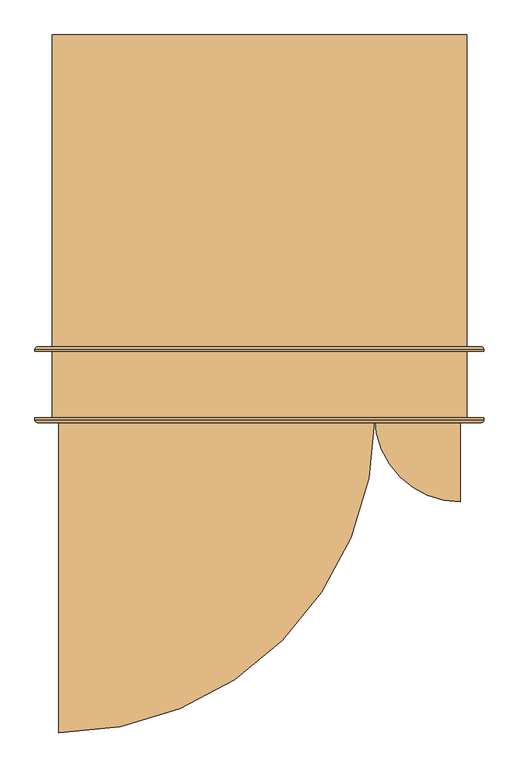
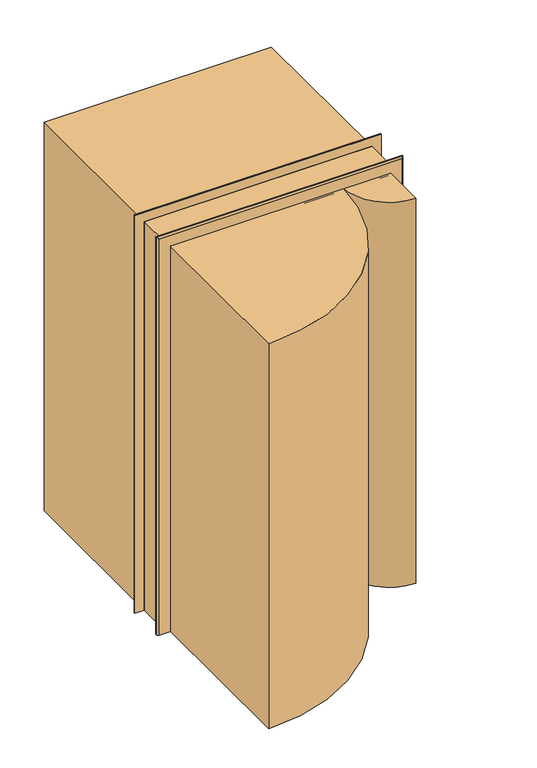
"""IFC4 building model written with IfcOpenShell, lengths in millimetres: door geometry, Дверь_Деревянная_Внутренняя_Двупольная_ГОСТ_475-2016 : 1310 х 2370(h)_Л_с Порогом."""

from ifc_helpers import new_model, si_unit, point, frame, frame_2d, origin, origin_with_axes, place, context, project, spatial, polyline, circle_curve, ellipse_curve, trimmed, segment, composite_curve, outline, extrude, faceted_brep, source, transform, mapped, element, save
from ifc_brep_helpers import plane_surface, cylinder_surface, revolved_surface, advanced_brep


def door_b498f91c(model_context):
    return source(origin(), model_context, "Body", "SolidModel", [
        extrude(outline(polyline([(-645.0, 499.0), (-645.0, 1499.0), (665.0, 1499.0), (665.0, 499.0), (-645.0, 499.0)])), origin_with_axes(), (0.0, 0.0, 1.0), 2370.0),
        extrude(outline(composite_curve([segment(polyline([(-625.0, -706.0), (-625.0, 294.0), (375.0, 294.0)]), True, "CONTINUOUS"), segment(trimmed(circle_curve(frame_2d((-625.0, 294.0)), 1000.0), [point((375.0, 294.0))], [point((-625.0, -706.0))], False, "CARTESIAN"), True, "CONTINUOUS")], self_intersect=False)), origin_with_axes(), (0.0, 0.0, 1.0), 2350.0),
        extrude(outline(composite_curve([segment(trimmed(circle_curve(frame_2d((645.0, 294.0)), 270.0), [point((645.0, 24.0))], [point((375.0, 294.0))], False, "CARTESIAN"), True, "CONTINUOUS"), segment(polyline([(375.0, 294.0), (645.0, 294.0), (645.0, 24.0)]), True, "CONTINUOUS")], self_intersect=False)), origin_with_axes(), (0.0, 0.0, 1.0), 2350.0),
        advanced_brep(
        [(410.0, 268.0, 1100.0), (420.0, 238.0, 1100.0), (450.0, 238.0, 1100.0), (460.0, 268.0, 1100.0), (417.0, 268.0, 1100.0), (453.0, 268.0, 1100.0), (425.0, 276.0, 1100.0), (445.0, 276.0, 1100.0), (425.0, 288.0, 1100.0), (445.0, 288.0, 1100.0), (435.0, 288.0, 1100.0), (435.0, 238.0, 1100.0)],
        [
            (0, 1, circle_curve(frame((444.6226265, 262.8742088, 1100.0), z_axis=(0.0, 0.0, 1.0), x_axis=(1.0, 0.0, 0.0)), 35.0)),
            (1, 2, circle_curve(frame((435.0, 238.0, 1100.0), z_axis=(0.0, 1.0, 0.0), x_axis=(1.0, 0.0, 0.0)), 15.0)),
            (2, 3, circle_curve(frame((425.3773735, 262.8742088, 1100.0), z_axis=(0.0, 0.0, 1.0), x_axis=(-1.0, 0.0, 0.0)), 35.0)),
            (3, 0, circle_curve(frame((435.0, 268.0, 1100.0), z_axis=(0.0, -1.0, 0.0), x_axis=(1.0, 0.0, 0.0)), 25.0)),
            (2, 1, circle_curve(frame((435.0, 238.0, 1100.0), z_axis=(0.0, 1.0, 0.0), x_axis=(1.0, 0.0, 0.0)), 15.0)),
            (0, 3, circle_curve(frame((435.0, 268.0, 1100.0), z_axis=(0.0, -1.0, 0.0), x_axis=(1.0, 0.0, 0.0)), 25.0)),
            (4, 0),
            (3, 5),
            (5, 4, circle_curve(frame((435.0, 268.0, 1100.0), z_axis=(0.0, -1.0, 0.0), x_axis=(1.0, 0.0, 0.0)), 18.0)),
            (4, 5, circle_curve(frame((435.0, 268.0, 1100.0), z_axis=(0.0, -1.0, 0.0), x_axis=(1.0, 0.0, 0.0)), 18.0)),
            (6, 4, circle_curve(frame((417.0, 276.0, 1100.0), z_axis=(0.0, 0.0, -1.0), x_axis=(1.0, 0.0, 0.0)), 8.0)),
            (5, 7, circle_curve(frame((453.0, 276.0, 1100.0), z_axis=(0.0, 0.0, -1.0), x_axis=(-1.0, 0.0, 0.0)), 8.0)),
            (7, 6, circle_curve(frame((435.0, 276.0, 1100.0), z_axis=(0.0, -1.0, 0.0), x_axis=(1.0, 0.0, 0.0)), 10.0)),
            (6, 7, circle_curve(frame((435.0, 276.0, 1100.0), z_axis=(0.0, -1.0, 0.0), x_axis=(1.0, 0.0, 0.0)), 10.0)),
            (8, 6),
            (7, 9),
            (9, 8, circle_curve(frame((435.0, 288.0, 1100.0), z_axis=(0.0, -1.0, 0.0), x_axis=(1.0, 0.0, 0.0)), 10.0)),
            (8, 9, circle_curve(frame((435.0, 288.0, 1100.0), z_axis=(0.0, -1.0, 0.0), x_axis=(1.0, 0.0, 0.0)), 10.0)),
            (10, 8),
            (9, 10),
            (1, 11),
            (11, 2),
        ],
        [
            revolved_surface(trimmed(ellipse_curve(frame((425.3773735, 262.8742088, 1100.0), z_axis=(0.0, 0.0, 1.0), x_axis=(-1.0, 0.0, 0.0)), 35.0, 35.0), [point((450.0, 238.0, 1100.0))], [point((460.0, 268.0, 1100.0))], True, "CARTESIAN"), (435.0, 238.0, 1100.0), (0.0, 1.0, 0.0)),
            plane_surface(frame((435.0, 268.0, 1100.0), z_axis=(0.0, 1.0, 0.0), x_axis=(1.0, 0.0, 0.0))),
            revolved_surface(trimmed(ellipse_curve(frame((453.0, 276.0, 1100.0), z_axis=(0.0, 0.0, -1.0), x_axis=(-1.0, 0.0, 0.0)), 8.0, 8.0), [point((453.0, 268.0, 1100.0))], [point((445.0, 276.0, 1100.0))], True, "CARTESIAN"), (435.0, 238.0, 1100.0), (0.0, 1.0, 0.0)),
            cylinder_surface(frame((435.0, 238.0, 1100.0), z_axis=(0.0, 1.0, 0.0), x_axis=(1.0, 0.0, 0.0)), 10.0),
            plane_surface(frame((435.0, 288.0, 1100.0), z_axis=(0.0, 1.0, 0.0), x_axis=(1.0, 0.0, 0.0))),
            plane_surface(frame((435.0, 238.0, 1100.0), z_axis=(0.0, -1.0, 0.0), x_axis=(1.0, 0.0, 0.0))),
        ],
        [
            (0, [[1, 2, 3, 4]]),
            (0, [[-3, 5, -1, 6]]),
            (1, [[7, -4, 8, 9]]),
            (1, [[-8, -6, -7, 10]]),
            (2, [[11, -9, 12, 13]]),
            (2, [[-12, -10, -11, 14]]),
            (3, [[15, -13, 16, 17]]),
            (3, [[-16, -14, -15, 18]]),
            (4, [[19, -17, 20]]),
            (4, [[-20, -18, -19]]),
            (5, [[21, 22, -2]]),
            (5, [[-22, -21, -5]]),
        ],
    ),
        extrude(outline(composite_curve([segment(trimmed(circle_curve(frame_2d((1100.0, 435.0)), 30.0), [point((1100.0, 465.0))], [point((1100.0, 405.0))], False, "CARTESIAN"), True, "CONTINUOUS"), segment(trimmed(circle_curve(frame_2d((1100.0, 435.0)), 30.0), [point((1100.0, 405.0))], [point((1100.0, 465.0))], False, "CARTESIAN"), True, "CONTINUOUS")], self_intersect=False)), frame((0.0, 288.0, 0.0), z_axis=(0.0, 1.0, 0.0), x_axis=(0.0, 0.0, 1.0)), (0.0, 0.0, 1.0), 6.0),
        advanced_brep(
        [(460.0, 369.0, 1100.0), (450.0, 399.0, 1100.0), (420.0, 399.0, 1100.0), (410.0, 369.0, 1100.0), (453.0, 369.0, 1100.0), (417.0, 369.0, 1100.0), (445.0, 361.0, 1100.0), (425.0, 361.0, 1100.0), (445.0, 349.0, 1100.0), (425.0, 349.0, 1100.0), (435.0, 349.0, 1100.0), (435.0, 399.0, 1100.0)],
        [
            (0, 1, circle_curve(frame((425.3773735, 374.1257912, 1100.0), z_axis=(0.0, 0.0, 1.0), x_axis=(-1.0, 0.0, 0.0)), 35.0)),
            (1, 2, circle_curve(frame((435.0, 399.0, 1100.0), z_axis=(0.0, -1.0, 0.0), x_axis=(-1.0, 0.0, 0.0)), 15.0)),
            (2, 3, circle_curve(frame((444.6226265, 374.1257912, 1100.0), z_axis=(0.0, 0.0, 1.0), x_axis=(1.0, 0.0, 0.0)), 35.0)),
            (3, 0, circle_curve(frame((435.0, 369.0, 1100.0), z_axis=(0.0, 1.0, 0.0), x_axis=(-1.0, 0.0, 0.0)), 25.0)),
            (2, 1, circle_curve(frame((435.0, 399.0, 1100.0), z_axis=(0.0, -1.0, 0.0), x_axis=(-1.0, 0.0, 0.0)), 15.0)),
            (0, 3, circle_curve(frame((435.0, 369.0, 1100.0), z_axis=(0.0, 1.0, 0.0), x_axis=(-1.0, 0.0, 0.0)), 25.0)),
            (4, 0),
            (3, 5),
            (5, 4, circle_curve(frame((435.0, 369.0, 1100.0), z_axis=(0.0, 1.0, 0.0), x_axis=(-1.0, 0.0, 0.0)), 18.0)),
            (4, 5, circle_curve(frame((435.0, 369.0, 1100.0), z_axis=(0.0, 1.0, 0.0), x_axis=(-1.0, 0.0, 0.0)), 18.0)),
            (6, 4, circle_curve(frame((453.0, 361.0, 1100.0), z_axis=(0.0, 0.0, -1.0), x_axis=(-1.0, 0.0, 0.0)), 8.0)),
            (5, 7, circle_curve(frame((417.0, 361.0, 1100.0), z_axis=(0.0, 0.0, -1.0), x_axis=(1.0, 0.0, 0.0)), 8.0)),
            (7, 6, circle_curve(frame((435.0, 361.0, 1100.0), z_axis=(0.0, 1.0, 0.0), x_axis=(-1.0, 0.0, 0.0)), 10.0)),
            (6, 7, circle_curve(frame((435.0, 361.0, 1100.0), z_axis=(0.0, 1.0, 0.0), x_axis=(-1.0, 0.0, 0.0)), 10.0)),
            (8, 6),
            (7, 9),
            (9, 8, circle_curve(frame((435.0, 349.0, 1100.0), z_axis=(0.0, 1.0, 0.0), x_axis=(-1.0, 0.0, 0.0)), 10.0)),
            (8, 9, circle_curve(frame((435.0, 349.0, 1100.0), z_axis=(0.0, 1.0, 0.0), x_axis=(-1.0, 0.0, 0.0)), 10.0)),
            (10, 8),
            (9, 10),
            (1, 11),
            (11, 2),
        ],
        [
            revolved_surface(trimmed(ellipse_curve(frame((444.6226265, 374.1257912, 1100.0), z_axis=(0.0, 0.0, 1.0), x_axis=(1.0, 0.0, 0.0)), 35.0, 35.0), [point((420.0, 399.0, 1100.0))], [point((410.0, 369.0, 1100.0))], True, "CARTESIAN"), (435.0, 399.0, 1100.0), (0.0, -1.0, 0.0)),
            plane_surface(frame((435.0, 369.0, 1100.0), z_axis=(0.0, -1.0, 0.0), x_axis=(-1.0, 0.0, 0.0))),
            revolved_surface(trimmed(ellipse_curve(frame((417.0, 361.0, 1100.0), z_axis=(0.0, 0.0, -1.0), x_axis=(1.0, 0.0, 0.0)), 8.0, 8.0), [point((417.0, 369.0, 1100.0))], [point((425.0, 361.0, 1100.0))], True, "CARTESIAN"), (435.0, 399.0, 1100.0), (0.0, -1.0, 0.0)),
            cylinder_surface(frame((435.0, 399.0, 1100.0), z_axis=(0.0, -1.0, 0.0), x_axis=(-1.0, 0.0, 0.0)), 10.0),
            plane_surface(frame((435.0, 349.0, 1100.0), z_axis=(0.0, -1.0, 0.0), x_axis=(-1.0, 0.0, 0.0))),
            plane_surface(frame((435.0, 399.0, 1100.0), z_axis=(0.0, 1.0, 0.0), x_axis=(-1.0, 0.0, 0.0))),
        ],
        [
            (0, [[1, 2, 3, 4]]),
            (0, [[-3, 5, -1, 6]]),
            (1, [[7, -4, 8, 9]]),
            (1, [[-8, -6, -7, 10]]),
            (2, [[11, -9, 12, 13]]),
            (2, [[-12, -10, -11, 14]]),
            (3, [[15, -13, 16, 17]]),
            (3, [[-16, -14, -15, 18]]),
            (4, [[19, -17, 20]]),
            (4, [[-20, -18, -19]]),
            (5, [[21, 22, -2]]),
            (5, [[-22, -21, -5]]),
        ],
    ),
        extrude(outline(composite_curve([segment(trimmed(circle_curve(frame_2d((1100.0, 435.0)), 30.0), [point((1100.0, 405.0))], [point((1100.0, 465.0))], False, "CARTESIAN"), True, "CONTINUOUS"), segment(trimmed(circle_curve(frame_2d((1100.0, 435.0)), 30.0), [point((1100.0, 465.0))], [point((1100.0, 405.0))], False, "CARTESIAN"), True, "CONTINUOUS")], self_intersect=False)), frame((0.0, 343.0, 0.0), z_axis=(0.0, 1.0, 0.0), x_axis=(0.0, 0.0, 1.0)), (0.0, 0.0, 1.0), 6.0),
        advanced_brep(
        [(340.0, 268.0, 1100.0), (290.0, 268.0, 1100.0), (300.0, 238.0, 1100.0), (330.0, 238.0, 1100.0), (333.0, 268.0, 1100.0), (297.0, 268.0, 1100.0), (325.0, 276.0, 1100.0), (305.0, 276.0, 1100.0), (325.0, 288.0, 1100.0), (305.0, 288.0, 1100.0), (315.0, 288.0, 1100.0), (315.0, 238.0, 1100.0)],
        [
            (0, 1, circle_curve(frame((315.0, 268.0, 1100.0), z_axis=(0.0, -1.0, 0.0), x_axis=(-1.0, 0.0, 0.0)), 25.0)),
            (1, 2, circle_curve(frame((324.6226265, 262.8742088, 1100.0), z_axis=(0.0, 0.0, 1.0), x_axis=(1.0, 0.0, 0.0)), 35.0)),
            (2, 3, circle_curve(frame((315.0, 238.0, 1100.0), z_axis=(0.0, 1.0, 0.0), x_axis=(-1.0, 0.0, 0.0)), 15.0)),
            (3, 0, circle_curve(frame((305.3773735, 262.8742088, 1100.0), z_axis=(0.0, 0.0, 1.0), x_axis=(-1.0, 0.0, 0.0)), 35.0)),
            (1, 0, circle_curve(frame((315.0, 268.0, 1100.0), z_axis=(0.0, -1.0, 0.0), x_axis=(-1.0, 0.0, 0.0)), 25.0)),
            (3, 2, circle_curve(frame((315.0, 238.0, 1100.0), z_axis=(0.0, 1.0, 0.0), x_axis=(-1.0, 0.0, 0.0)), 15.0)),
            (4, 5, circle_curve(frame((315.0, 268.0, 1100.0), z_axis=(0.0, -1.0, 0.0), x_axis=(-1.0, 0.0, 0.0)), 18.0)),
            (5, 1),
            (0, 4),
            (5, 4, circle_curve(frame((315.0, 268.0, 1100.0), z_axis=(0.0, -1.0, 0.0), x_axis=(-1.0, 0.0, 0.0)), 18.0)),
            (6, 7, circle_curve(frame((315.0, 276.0, 1100.0), z_axis=(0.0, -1.0, 0.0), x_axis=(-1.0, 0.0, 0.0)), 10.0)),
            (7, 5, circle_curve(frame((297.0, 276.0, 1100.0), z_axis=(0.0, 0.0, -1.0), x_axis=(1.0, 0.0, 0.0)), 8.0)),
            (4, 6, circle_curve(frame((333.0, 276.0, 1100.0), z_axis=(0.0, 0.0, -1.0), x_axis=(-1.0, 0.0, 0.0)), 8.0)),
            (7, 6, circle_curve(frame((315.0, 276.0, 1100.0), z_axis=(0.0, -1.0, 0.0), x_axis=(-1.0, 0.0, 0.0)), 10.0)),
            (8, 9, circle_curve(frame((315.0, 288.0, 1100.0), z_axis=(0.0, -1.0, 0.0), x_axis=(-1.0, 0.0, 0.0)), 10.0)),
            (9, 7),
            (6, 8),
            (9, 8, circle_curve(frame((315.0, 288.0, 1100.0), z_axis=(0.0, -1.0, 0.0), x_axis=(-1.0, 0.0, 0.0)), 10.0)),
            (10, 9),
            (8, 10),
            (2, 11),
            (11, 3),
        ],
        [
            revolved_surface(trimmed(ellipse_curve(frame((324.6226265, 262.8742088, 1100.0), z_axis=(0.0, 0.0, -1.0), x_axis=(1.0, 0.0, 0.0)), 35.0, 35.0), [point((300.0, 238.0, 1100.0))], [point((290.0, 268.0, 1100.0))], True, "CARTESIAN"), (315.0, 238.0, 1100.0), (0.0, 1.0, 0.0)),
            plane_surface(frame((315.0, 268.0, 1100.0), z_axis=(0.0, 1.0, 0.0), x_axis=(-1.0, 0.0, 0.0))),
            revolved_surface(trimmed(ellipse_curve(frame((297.0, 276.0, 1100.0), z_axis=(0.0, 0.0, 1.0), x_axis=(1.0, 0.0, 0.0)), 8.0, 8.0), [point((297.0, 268.0, 1100.0))], [point((305.0, 276.0, 1100.0))], True, "CARTESIAN"), (315.0, 238.0, 1100.0), (0.0, 1.0, 0.0)),
            cylinder_surface(frame((315.0, 238.0, 1100.0), z_axis=(0.0, 1.0, 0.0), x_axis=(-1.0, 0.0, 0.0)), 10.0),
            plane_surface(frame((315.0, 288.0, 1100.0), z_axis=(0.0, 1.0, 0.0), x_axis=(-1.0, 0.0, 0.0))),
            plane_surface(frame((315.0, 238.0, 1100.0), z_axis=(0.0, -1.0, 0.0), x_axis=(-1.0, 0.0, 0.0))),
        ],
        [
            (0, [[1, 2, 3, 4]]),
            (0, [[5, -4, 6, -2]]),
            (1, [[7, 8, -1, 9]]),
            (1, [[10, -9, -5, -8]]),
            (2, [[11, 12, -7, 13]]),
            (2, [[14, -13, -10, -12]]),
            (3, [[15, 16, -11, 17]]),
            (3, [[18, -17, -14, -16]]),
            (4, [[19, -15, 20]]),
            (4, [[-20, -18, -19]]),
            (5, [[-3, 21, 22]]),
            (5, [[-6, -22, -21]]),
        ],
    ),
        extrude(outline(composite_curve([segment(trimmed(circle_curve(frame_2d((1100.0, 315.0)), 30.0), [point((1100.0, 285.0))], [point((1100.0, 345.0))], False, "CARTESIAN"), True, "CONTINUOUS"), segment(trimmed(circle_curve(frame_2d((1100.0, 315.0)), 30.0), [point((1100.0, 345.0))], [point((1100.0, 285.0))], False, "CARTESIAN"), True, "CONTINUOUS")], self_intersect=False)), frame((0.0, 288.0, 0.0), z_axis=(0.0, 1.0, 0.0), x_axis=(0.0, 0.0, 1.0)), (0.0, 0.0, 1.0), 6.0),
        advanced_brep(
        [(290.0, 369.0, 1100.0), (340.0, 369.0, 1100.0), (330.0, 399.0, 1100.0), (300.0, 399.0, 1100.0), (297.0, 369.0, 1100.0), (333.0, 369.0, 1100.0), (305.0, 361.0, 1100.0), (325.0, 361.0, 1100.0), (305.0, 349.0, 1100.0), (325.0, 349.0, 1100.0), (315.0, 349.0, 1100.0), (315.0, 399.0, 1100.0)],
        [
            (0, 1, circle_curve(frame((315.0, 369.0, 1100.0), z_axis=(0.0, 1.0, 0.0), x_axis=(1.0, 0.0, 0.0)), 25.0)),
            (1, 2, circle_curve(frame((305.3773735, 374.1257912, 1100.0), z_axis=(0.0, 0.0, 1.0), x_axis=(-1.0, 0.0, 0.0)), 35.0)),
            (2, 3, circle_curve(frame((315.0, 399.0, 1100.0), z_axis=(0.0, -1.0, 0.0), x_axis=(1.0, 0.0, 0.0)), 15.0)),
            (3, 0, circle_curve(frame((324.6226265, 374.1257912, 1100.0), z_axis=(0.0, 0.0, 1.0), x_axis=(1.0, 0.0, 0.0)), 35.0)),
            (1, 0, circle_curve(frame((315.0, 369.0, 1100.0), z_axis=(0.0, 1.0, 0.0), x_axis=(1.0, 0.0, 0.0)), 25.0)),
            (3, 2, circle_curve(frame((315.0, 399.0, 1100.0), z_axis=(0.0, -1.0, 0.0), x_axis=(1.0, 0.0, 0.0)), 15.0)),
            (4, 5, circle_curve(frame((315.0, 369.0, 1100.0), z_axis=(0.0, 1.0, 0.0), x_axis=(1.0, 0.0, 0.0)), 18.0)),
            (5, 1),
            (0, 4),
            (5, 4, circle_curve(frame((315.0, 369.0, 1100.0), z_axis=(0.0, 1.0, 0.0), x_axis=(1.0, 0.0, 0.0)), 18.0)),
            (6, 7, circle_curve(frame((315.0, 361.0, 1100.0), z_axis=(0.0, 1.0, 0.0), x_axis=(1.0, 0.0, 0.0)), 10.0)),
            (7, 5, circle_curve(frame((333.0, 361.0, 1100.0), z_axis=(0.0, 0.0, -1.0), x_axis=(-1.0, 0.0, 0.0)), 8.0)),
            (4, 6, circle_curve(frame((297.0, 361.0, 1100.0), z_axis=(0.0, 0.0, -1.0), x_axis=(1.0, 0.0, 0.0)), 8.0)),
            (7, 6, circle_curve(frame((315.0, 361.0, 1100.0), z_axis=(0.0, 1.0, 0.0), x_axis=(1.0, 0.0, 0.0)), 10.0)),
            (8, 9, circle_curve(frame((315.0, 349.0, 1100.0), z_axis=(0.0, 1.0, 0.0), x_axis=(1.0, 0.0, 0.0)), 10.0)),
            (9, 7),
            (6, 8),
            (9, 8, circle_curve(frame((315.0, 349.0, 1100.0), z_axis=(0.0, 1.0, 0.0), x_axis=(1.0, 0.0, 0.0)), 10.0)),
            (10, 9),
            (8, 10),
            (2, 11),
            (11, 3),
        ],
        [
            revolved_surface(trimmed(ellipse_curve(frame((305.3773735, 374.1257912, 1100.0), z_axis=(0.0, 0.0, -1.0), x_axis=(-1.0, 0.0, 0.0)), 35.0, 35.0), [point((330.0, 399.0, 1100.0))], [point((340.0, 369.0, 1100.0))], True, "CARTESIAN"), (315.0, 399.0, 1100.0), (0.0, -1.0, 0.0)),
            plane_surface(frame((315.0, 369.0, 1100.0), z_axis=(0.0, -1.0, 0.0), x_axis=(1.0, 0.0, 0.0))),
            revolved_surface(trimmed(ellipse_curve(frame((333.0, 361.0, 1100.0), z_axis=(0.0, 0.0, 1.0), x_axis=(-1.0, 0.0, 0.0)), 8.0, 8.0), [point((333.0, 369.0, 1100.0))], [point((325.0, 361.0, 1100.0))], True, "CARTESIAN"), (315.0, 399.0, 1100.0), (0.0, -1.0, 0.0)),
            cylinder_surface(frame((315.0, 399.0, 1100.0), z_axis=(0.0, -1.0, 0.0), x_axis=(1.0, 0.0, 0.0)), 10.0),
            plane_surface(frame((315.0, 349.0, 1100.0), z_axis=(0.0, -1.0, 0.0), x_axis=(1.0, 0.0, 0.0))),
            plane_surface(frame((315.0, 399.0, 1100.0), z_axis=(0.0, 1.0, 0.0), x_axis=(1.0, 0.0, 0.0))),
        ],
        [
            (0, [[1, 2, 3, 4]]),
            (0, [[5, -4, 6, -2]]),
            (1, [[7, 8, -1, 9]]),
            (1, [[10, -9, -5, -8]]),
            (2, [[11, 12, -7, 13]]),
            (2, [[14, -13, -10, -12]]),
            (3, [[15, 16, -11, 17]]),
            (3, [[18, -17, -14, -16]]),
            (4, [[19, -15, 20]]),
            (4, [[-20, -18, -19]]),
            (5, [[-3, 21, 22]]),
            (5, [[-6, -22, -21]]),
        ],
    ),
        extrude(outline(composite_curve([segment(trimmed(circle_curve(frame_2d((1100.0, 315.0)), 30.0), [point((1100.0, 345.0))], [point((1100.0, 285.0))], False, "CARTESIAN"), True, "CONTINUOUS"), segment(trimmed(circle_curve(frame_2d((1100.0, 315.0)), 30.0), [point((1100.0, 285.0))], [point((1100.0, 345.0))], False, "CARTESIAN"), True, "CONTINUOUS")], self_intersect=False)), frame((0.0, 343.0, 0.0), z_axis=(0.0, 1.0, 0.0), x_axis=(0.0, 0.0, 1.0)), (0.0, 0.0, 1.0), 6.0),
        extrude(outline(polyline([(0.0, 645.0), (0.0, 665.0), (2370.0, 665.0), (2370.0, -645.0), (0.0, -645.0), (0.0, -625.0), (2350.0, -625.0), (2350.0, 645.0), (0.0, 645.0)])), frame((0.0, 289.0, 0.0), z_axis=(0.0, 1.0, 0.0), x_axis=(0.0, 0.0, 1.0)), (0.0, 0.0, 1.0), 210.0),
        advanced_brep(
        [(-700.0, 284.0, 0.0), (-700.0, 289.0, 0.0), (-610.0, 289.0, 0.0), (-610.0, 284.0, 0.0), (-620.0, 274.0, 0.0), (-690.0, 274.0, 0.0), (-700.0, 284.0, 2425.0), (-700.0, 289.0, 2425.0), (720.0, 289.0, 2425.0), (720.0, 289.0, 0.0), (630.0, 289.0, 0.0), (630.0, 289.0, 2335.0), (-610.0, 289.0, 2335.0), (-610.0, 284.0, 2335.0), (-620.0, 274.0, 2345.0), (640.0, 274.0, 2345.0), (640.0, 274.0, 0.0), (710.0, 274.0, 0.0), (710.0, 274.0, 2415.0), (-690.0, 274.0, 2415.0), (720.0, 284.0, 2425.0), (720.0, 284.0, 0.0), (630.0, 284.0, 0.0), (630.0, 284.0, 2335.0)],
        [
            (0, 1),
            (1, 2),
            (2, 3),
            (3, 4, circle_curve(frame((-620.0, 284.0, 0.0), z_axis=(0.0, 0.0, -1.0), x_axis=(1.0, 0.0, 0.0)), 10.0)),
            (4, 5),
            (5, 0, circle_curve(frame((-690.0, 284.0, 0.0), z_axis=(0.0, 0.0, -1.0), x_axis=(1.0, 0.0, 0.0)), 10.0)),
            (0, 6),
            (6, 7),
            (7, 1),
            (7, 8),
            (8, 9),
            (9, 10),
            (10, 11),
            (11, 12),
            (12, 2),
            (12, 13),
            (13, 3),
            (13, 14, ellipse_curve(frame((-620.0, 284.0, 2345.0), z_axis=(-0.7071067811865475, 0.0, -0.7071067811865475), x_axis=(0.7071067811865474, 0.0, -0.7071067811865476)), 14.1421356, 10.0)),
            (14, 4),
            (14, 15),
            (15, 16),
            (16, 17),
            (17, 18),
            (18, 19),
            (19, 5),
            (19, 6, ellipse_curve(frame((-690.0, 284.0, 2415.0), z_axis=(-0.7071067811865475, 0.0, -0.7071067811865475), x_axis=(0.7071067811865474, 0.0, -0.7071067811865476)), 14.1421356, 10.0)),
            (8, 20),
            (20, 21),
            (21, 9),
            (21, 17, circle_curve(frame((710.0, 284.0, 0.0), z_axis=(0.0, 0.0, -1.0), x_axis=(-1.0, 0.0, 0.0)), 10.0)),
            (16, 22, circle_curve(frame((640.0, 284.0, 0.0), z_axis=(0.0, 0.0, -1.0), x_axis=(-1.0, 0.0, 0.0)), 10.0)),
            (22, 10),
            (23, 11),
            (22, 23),
            (15, 23, ellipse_curve(frame((640.0, 284.0, 2345.0), z_axis=(0.7071067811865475, 0.0, -0.7071067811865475), x_axis=(0.7071067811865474, 0.0, 0.7071067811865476)), 14.1421356, 10.0)),
            (20, 18, ellipse_curve(frame((710.0, 284.0, 2415.0), z_axis=(0.7071067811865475, 0.0, -0.7071067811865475), x_axis=(0.7071067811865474, 0.0, 0.7071067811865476)), 14.1421356, 10.0)),
            (6, 20),
            (23, 13),
        ],
        [
            plane_surface(frame((-645.0, 289.0, 0.0), z_axis=(0.0, 0.0, -1.0), x_axis=(0.0, -1.0, 0.0))),
            plane_surface(frame((-700.0, 284.0, 0.0), z_axis=(-1.0, 0.0, 0.0), x_axis=(0.0, 0.0, 1.0))),
            plane_surface(frame((-700.0, 289.0, 0.0), z_axis=(0.0, 1.0, 0.0), x_axis=(0.0, 0.0, 1.0))),
            plane_surface(frame((-610.0, 289.0, 0.0), z_axis=(1.0, 0.0, 0.0), x_axis=(0.0, 0.0, 1.0))),
            cylinder_surface(frame((-620.0, 284.0, 0.0), z_axis=(0.0, 0.0, -1.0), x_axis=(1.0, 0.0, 0.0)), 10.0),
            plane_surface(frame((-620.0, 274.0, 0.0), z_axis=(0.0, -1.0, 0.0), x_axis=(0.0, 0.0, 1.0))),
            cylinder_surface(frame((-690.0, 284.0, 0.0), z_axis=(0.0, 0.0, -1.0), x_axis=(1.0, 0.0, 0.0)), 10.0),
            plane_surface(frame((720.0, 284.0, 2425.0), z_axis=(1.0, 0.0, 0.0), x_axis=(0.0, 0.0, -1.0))),
            plane_surface(frame((665.0, 289.0, 0.0), z_axis=(0.0, 0.0, -1.0), x_axis=(0.0, -1.0, 0.0))),
            plane_surface(frame((630.0, 289.0, 2335.0), z_axis=(-1.0, 0.0, 0.0), x_axis=(0.0, 0.0, -1.0))),
            cylinder_surface(frame((640.0, 284.0, 2370.0), z_axis=(0.0, 0.0, 1.0), x_axis=(-1.0, 0.0, 0.0)), 10.0),
            cylinder_surface(frame((710.0, 284.0, 2370.0), z_axis=(0.0, 0.0, 1.0), x_axis=(-1.0, 0.0, 0.0)), 10.0),
            plane_surface(frame((-700.0, 284.0, 2425.0), z_axis=(0.0, 0.0, 1.0), x_axis=(1.0, 0.0, 0.0))),
            plane_surface(frame((-610.0, 289.0, 2335.0), z_axis=(0.0, 0.0, -1.0), x_axis=(1.0, 0.0, 0.0))),
            cylinder_surface(frame((-645.0, 284.0, 2345.0), z_axis=(-1.0, 0.0, 0.0), x_axis=(0.0, 0.0, -1.0)), 10.0),
            cylinder_surface(frame((-645.0, 284.0, 2415.0), z_axis=(-1.0, 0.0, 0.0), x_axis=(0.0, 0.0, -1.0)), 10.0),
        ],
        [
            (0, [[1, 2, 3, 4, 5, 6]]),
            (1, [[-1, 7, 8, 9]]),
            (2, [[-2, -9, 10, 11, 12, 13, 14, 15]]),
            (3, [[-3, -15, 16, 17]]),
            (4, [[-4, -17, 18, 19]]),
            (5, [[-5, -19, 20, 21, 22, 23, 24, 25]]),
            (6, [[-6, -25, 26, -7]]),
            (7, [[27, 28, 29, -11]]),
            (8, [[30, -22, 31, 32, -12, -29]]),
            (9, [[33, -13, -32, 34]]),
            (10, [[35, -34, -31, -21]]),
            (11, [[36, -23, -30, -28]]),
            (12, [[-8, 37, -27, -10]]),
            (13, [[-16, -14, -33, 38]]),
            (14, [[-18, -38, -35, -20]]),
            (15, [[-26, -24, -36, -37]]),
        ],
    ),
        advanced_brep(
        [(720.0, 504.0, 0.0), (720.0, 499.0, 0.0), (630.0, 499.0, 0.0), (630.0, 504.0, 0.0), (640.0, 514.0, 0.0), (710.0, 514.0, 0.0), (720.0, 504.0, 2425.0), (720.0, 499.0, 2425.0), (-700.0, 499.0, 2425.0), (-700.0, 499.0, 0.0), (-610.0, 499.0, 0.0), (-610.0, 499.0, 2335.0), (630.0, 499.0, 2335.0), (630.0, 504.0, 2335.0), (640.0, 514.0, 2345.0), (-620.0, 514.0, 2345.0), (-620.0, 514.0, 0.0), (-690.0, 514.0, 0.0), (-690.0, 514.0, 2415.0), (710.0, 514.0, 2415.0), (-700.0, 504.0, 2425.0), (-700.0, 504.0, 0.0), (-610.0, 504.0, 0.0), (-610.0, 504.0, 2335.0)],
        [
            (0, 1),
            (1, 2),
            (2, 3),
            (3, 4, circle_curve(frame((640.0, 504.0, 0.0), z_axis=(0.0, 0.0, -1.0), x_axis=(-1.0, 0.0, 0.0)), 10.0)),
            (4, 5),
            (5, 0, circle_curve(frame((710.0, 504.0, 0.0), z_axis=(0.0, 0.0, -1.0), x_axis=(-1.0, 0.0, 0.0)), 10.0)),
            (0, 6),
            (6, 7),
            (7, 1),
            (7, 8),
            (8, 9),
            (9, 10),
            (10, 11),
            (11, 12),
            (12, 2),
            (12, 13),
            (13, 3),
            (13, 14, ellipse_curve(frame((640.0, 504.0, 2345.0), z_axis=(0.7071067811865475, 0.0, -0.7071067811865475), x_axis=(-0.7071067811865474, 0.0, -0.7071067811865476)), 14.1421356, 10.0)),
            (14, 4),
            (14, 15),
            (15, 16),
            (16, 17),
            (17, 18),
            (18, 19),
            (19, 5),
            (19, 6, ellipse_curve(frame((710.0, 504.0, 2415.0), z_axis=(0.7071067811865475, 0.0, -0.7071067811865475), x_axis=(-0.7071067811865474, 0.0, -0.7071067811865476)), 14.1421356, 10.0)),
            (8, 20),
            (20, 21),
            (21, 9),
            (21, 17, circle_curve(frame((-690.0, 504.0, 0.0), z_axis=(0.0, 0.0, -1.0), x_axis=(1.0, 0.0, 0.0)), 10.0)),
            (16, 22, circle_curve(frame((-620.0, 504.0, 0.0), z_axis=(0.0, 0.0, -1.0), x_axis=(1.0, 0.0, 0.0)), 10.0)),
            (22, 10),
            (23, 11),
            (22, 23),
            (15, 23, ellipse_curve(frame((-620.0, 504.0, 2345.0), z_axis=(-0.7071067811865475, 0.0, -0.7071067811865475), x_axis=(-0.7071067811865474, 0.0, 0.7071067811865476)), 14.1421356, 10.0)),
            (20, 18, ellipse_curve(frame((-690.0, 504.0, 2415.0), z_axis=(-0.7071067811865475, 0.0, -0.7071067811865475), x_axis=(-0.7071067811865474, 0.0, 0.7071067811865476)), 14.1421356, 10.0)),
            (6, 20),
            (23, 13),
        ],
        [
            plane_surface(frame((665.0, 499.0, 0.0), z_axis=(0.0, 0.0, -1.0), x_axis=(0.0, -1.0, 0.0))),
            plane_surface(frame((720.0, 504.0, 0.0), z_axis=(1.0, 0.0, 0.0), x_axis=(0.0, 0.0, 1.0))),
            plane_surface(frame((720.0, 499.0, 0.0), z_axis=(0.0, -1.0, 0.0), x_axis=(0.0, 0.0, 1.0))),
            plane_surface(frame((630.0, 499.0, 0.0), z_axis=(-1.0, 0.0, 0.0), x_axis=(0.0, 0.0, 1.0))),
            cylinder_surface(frame((640.0, 504.0, 0.0), z_axis=(0.0, 0.0, -1.0), x_axis=(-1.0, 0.0, 0.0)), 10.0),
            plane_surface(frame((640.0, 514.0, 0.0), z_axis=(0.0, 1.0, 0.0), x_axis=(0.0, 0.0, 1.0))),
            cylinder_surface(frame((710.0, 504.0, 0.0), z_axis=(0.0, 0.0, -1.0), x_axis=(-1.0, 0.0, 0.0)), 10.0),
            plane_surface(frame((-700.0, 504.0, 2425.0), z_axis=(-1.0, 0.0, 0.0), x_axis=(0.0, 0.0, -1.0))),
            plane_surface(frame((-645.0, 499.0, 0.0), z_axis=(0.0, 0.0, -1.0), x_axis=(0.0, -1.0, 0.0))),
            plane_surface(frame((-610.0, 499.0, 2335.0), z_axis=(1.0, 0.0, 0.0), x_axis=(0.0, 0.0, -1.0))),
            cylinder_surface(frame((-620.0, 504.0, 2370.0), z_axis=(0.0, 0.0, 1.0), x_axis=(1.0, 0.0, 0.0)), 10.0),
            cylinder_surface(frame((-690.0, 504.0, 2370.0), z_axis=(0.0, 0.0, 1.0), x_axis=(1.0, 0.0, 0.0)), 10.0),
            plane_surface(frame((720.0, 504.0, 2425.0), z_axis=(0.0, 0.0, 1.0), x_axis=(-1.0, 0.0, 0.0))),
            plane_surface(frame((630.0, 499.0, 2335.0), z_axis=(0.0, 0.0, -1.0), x_axis=(-1.0, 0.0, 0.0))),
            cylinder_surface(frame((665.0, 504.0, 2345.0), z_axis=(1.0, 0.0, 0.0), x_axis=(0.0, 0.0, -1.0)), 10.0),
            cylinder_surface(frame((665.0, 504.0, 2415.0), z_axis=(1.0, 0.0, 0.0), x_axis=(0.0, 0.0, -1.0)), 10.0),
        ],
        [
            (0, [[1, 2, 3, 4, 5, 6]]),
            (1, [[-1, 7, 8, 9]]),
            (2, [[-2, -9, 10, 11, 12, 13, 14, 15]]),
            (3, [[-3, -15, 16, 17]]),
            (4, [[-4, -17, 18, 19]]),
            (5, [[-5, -19, 20, 21, 22, 23, 24, 25]]),
            (6, [[-6, -25, 26, -7]]),
            (7, [[27, 28, 29, -11]]),
            (8, [[30, -22, 31, 32, -12, -29]]),
            (9, [[33, -13, -32, 34]]),
            (10, [[35, -34, -31, -21]]),
            (11, [[36, -23, -30, -28]]),
            (12, [[-8, 37, -27, -10]]),
            (13, [[-16, -14, -33, 38]]),
            (14, [[-18, -38, -35, -20]]),
            (15, [[-26, -24, -36, -37]]),
        ],
    ),
        extrude(outline(polyline([(605.0, 343.0), (605.0, 289.0), (-585.0, 289.0), (-585.0, 343.0), (605.0, 343.0)])), origin_with_axes(), (0.0, 0.0, 1.0), 45.0),
        extrude(outline(polyline([(600.0, 343.0), (600.0, 294.0), (375.0, 294.0), (375.0, 343.0), (600.0, 343.0)])), frame((0.0, 0.0, 45.0), z_axis=(0.0, 0.0, 1.0), x_axis=(1.0, 0.0, 0.0)), (0.0, 0.0, 1.0), 2260.0),
        extrude(outline(polyline([(375.0, 343.0), (375.0, 294.0), (-580.0, 294.0), (-580.0, 343.0), (375.0, 343.0)])), frame((0.0, 0.0, 45.0), z_axis=(0.0, 0.0, 1.0), x_axis=(1.0, 0.0, 0.0)), (0.0, 0.0, 1.0), 2260.0),
        faceted_brep([(630.0, 499.0, 0.0), (645.0, 499.0, 0.0), (645.0, 388.0, 0.0), (630.0, 388.0, 0.0), (630.0, 499.0, 2335.0), (-610.0, 499.0, 2335.0), (-610.0, 499.0, 0.0), (-625.0, 499.0, 0.0), (-625.0, 499.0, 2350.0), (645.0, 499.0, 2350.0), (645.0, 388.0, 2350.0), (630.0, 388.0, 15.0), (630.0, 388.0, 2335.0), (-625.0, 388.0, 2350.0), (-610.0, 388.0, 2335.0), (-610.0, 388.0, 0.0), (-625.0, 388.0, 0.0), (-610.0, 388.0, 15.0)], [[[0, 1, 2, 3]], [[1, 0, 4, 5, 6, 7, 8, 9]], [[1, 9, 10, 2]], [[4, 0, 3, 11, 12]], [[9, 8, 13, 10]], [[5, 4, 12, 14]], [[7, 6, 15, 16]], [[8, 7, 16, 13]], [[6, 5, 14, 17, 15]], [[3, 2, 10, 13, 16, 15, 17, 14, 12, 11]]]),
        faceted_brep([(645.0, 289.0, 0.0), (630.0, 289.0, 0.0), (630.0, 294.0, 0.0), (645.0, 294.0, 0.0), (645.0, 289.0, 2350.0), (645.0, 294.0, 2350.0), (-625.0, 289.0, 2350.0), (-625.0, 289.0, 0.0), (-610.0, 289.0, 0.0), (-610.0, 289.0, 2335.0), (630.0, 289.0, 2335.0), (630.0, 294.0, 2335.0), (630.0, 294.0, 15.0), (-625.0, 294.0, 2350.0), (-610.0, 294.0, 2335.0), (-625.0, 294.0, 0.0), (-610.0, 294.0, 0.0), (-610.0, 294.0, 15.0)], [[[0, 1, 2, 3]], [[4, 0, 3, 5]], [[1, 0, 4, 6, 7, 8, 9, 10]], [[1, 10, 11, 12, 2]], [[6, 4, 5, 13]], [[10, 9, 14, 11]], [[8, 7, 15, 16]], [[7, 6, 13, 15]], [[9, 8, 16, 17, 14]], [[3, 2, 12, 11, 14, 17, 16, 15, 13, 5]]]),
        faceted_brep([(590.0, 388.0, 0.0), (645.0, 388.0, 0.0), (645.0, 294.0, 0.0), (605.0, 294.0, 0.0), (605.0, 348.0, 0.0), (590.0, 348.0, 0.0), (590.0, 388.0, 2295.0), (-570.0, 388.0, 2295.0), (-570.0, 388.0, 0.0), (-625.0, 388.0, 0.0), (-625.0, 388.0, 2350.0), (645.0, 388.0, 2350.0), (645.0, 294.0, 2350.0), (-625.0, 294.0, 2350.0), (-625.0, 294.0, 0.0), (-585.0, 294.0, 0.0), (-585.0, 294.0, 2310.0), (605.0, 294.0, 2310.0), (605.0, 348.0, 2310.0), (-585.0, 348.0, 2310.0), (-585.0, 348.0, 0.0), (-570.0, 348.0, 0.0), (-570.0, 348.0, 2295.0), (590.0, 348.0, 2295.0)], [[[0, 1, 2, 3, 4, 5]], [[1, 0, 6, 7, 8, 9, 10, 11]], [[2, 1, 11, 12]], [[3, 2, 12, 13, 14, 15, 16, 17]], [[4, 3, 17, 18]], [[5, 4, 18, 19, 20, 21, 22, 23]], [[0, 5, 23, 6]], [[12, 11, 10, 13]], [[18, 17, 16, 19]], [[6, 23, 22, 7]], [[8, 21, 20, 15, 14, 9]], [[13, 10, 9, 14]], [[19, 16, 15, 20]], [[7, 22, 21, 8]]]),
    ])


if __name__ == "__main__":
    model = new_model("IFC4")
    model_context = context("Model", 3, world=origin())
    ifc_project = project(units=[si_unit("LENGTHUNIT", "METRE", prefix="MILLI")], contexts=[model_context])
    site = spatial("IfcSite", under=ifc_project)
    building = spatial("IfcBuilding", under=site)
    placement = place(None, origin())
    door_shape = door_b498f91c(model_context)
    element("IfcDoor", 1, ObjectType="Дверь_Деревянная_Внутренняя_Двупольная_ГОСТ_475-2016 : 1310 х 2370(h)_Л_с Порогом", at=placement, inside=building, context=model_context, shape_type="MappedRepresentation", body=[
        mapped(door_shape, transform((0.0, 0.0, 0.0), x_axis=(1.0, 0.0, 0.0), y_axis=(0.0, 1.0, 0.0), z_axis=(0.0, 0.0, 1.0))),
    ])
    save(model, "model.ifc")
